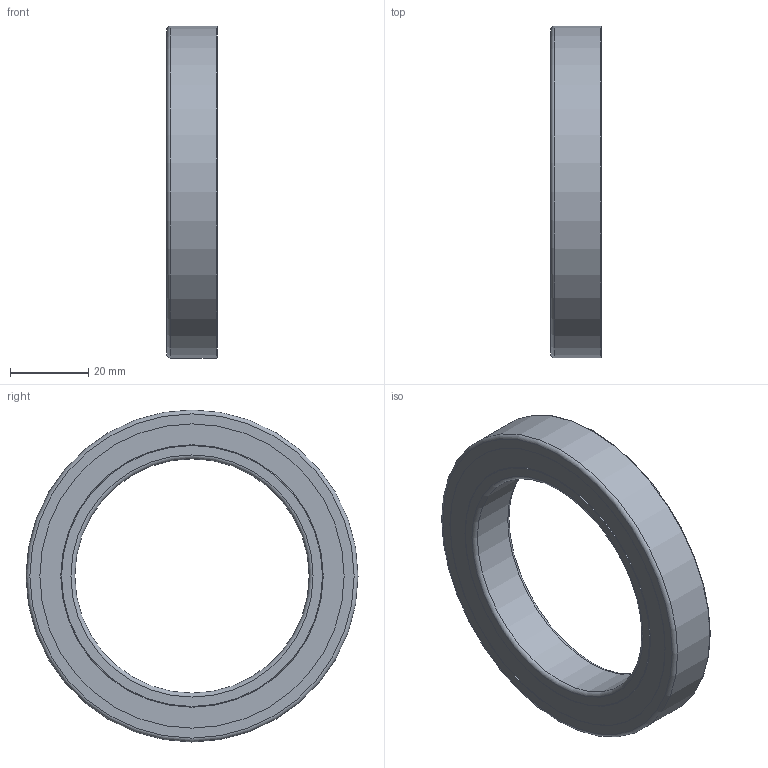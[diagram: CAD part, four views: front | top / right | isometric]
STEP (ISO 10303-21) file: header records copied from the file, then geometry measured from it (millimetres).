
FILE_DESCRIPTION(/* description */ (''),/* implementation_level */ '2;1');
FILE_NAME(/* name */ 'KH_61912_TA.step',/* time_stamp */ '2013-03-07T07:06:12+01:00',/* author */ ('Marian'),/* organization */ ('GMN'),/* preprocessor_version */ 'ST-DEVELOPER v11',/* originating_system */ 'SIEMENS UGS NX 6.0',/* authorisation */ '');
FILE_SCHEMA (('CONFIG_CONTROL_DESIGN'));
Length unit declared in the file: millimetre
Products named in the file (1): KH_61912_TA
Bounding box: 13 x 85 x 85 mm (x, y, z)
Volume: 29498.9 mm3; surface area: 28029.1 mm2
Topology: 37 solids, 37 shells, 96 faces, 248 edges, 162 vertices
Faces by surface type: cylinder 45, sphere 32, plane 12, torus 6, cone 1
Full cylindrical faces by diameter (mm): 5.756 x32, 60 x1, 66.8 x1, 67.2 x1, 68.1 x1, 68.5 x1, 71.476 x1, 74.852 x1, 75.252 x1, 77.9 x2, 79.5 x2, 85 x1
Entity records: 5670 total; most frequent: CARTESIAN_POINT 3969, DIRECTION 258, FACE_BOUND 224, EDGE_LOOP 192, ORIENTED_EDGE 192, AXIS2_PLACEMENT_3D 129, VERTEX_POINT 128, ADVANCED_FACE 96
